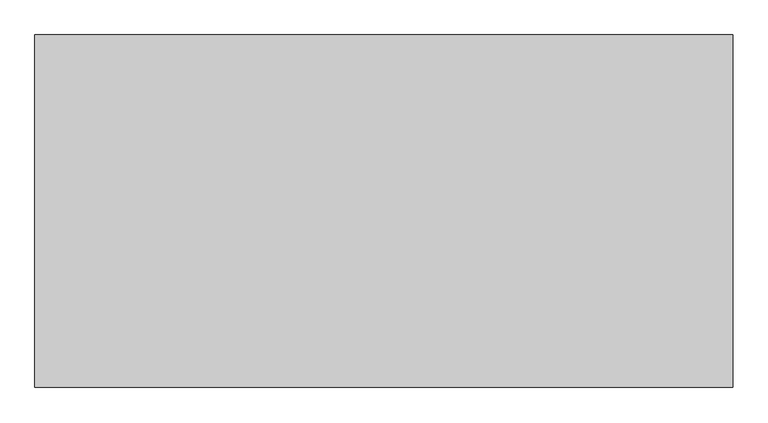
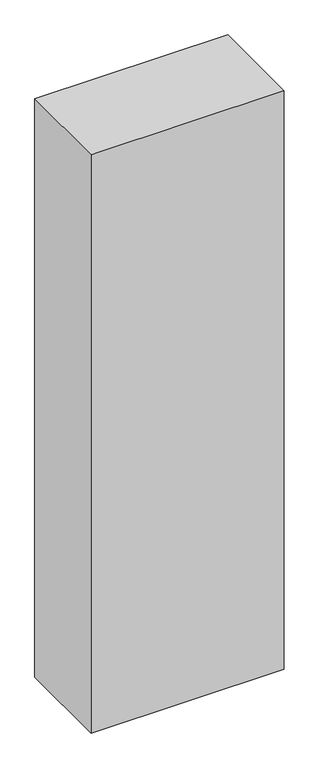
"""IFC4 building model written with IfcOpenShell, lengths in millimetres: proxy geometry."""

from ifc_helpers import new_model, si_unit, origin, origin_with_axes, place, context, project, spatial, polyline, outline, extrude, source, transform, mapped, element, save


def generic_models_80d60ba7(model_context):
    return source(origin(), model_context, "Body", "SweptSolid", [
        extrude(outline(polyline([(18062.1512068, -252.4), (17062.1512068, -252.4), (17062.1512068, 252.4), (18062.1512068, 252.4), (18062.1512068, -252.4)])), origin_with_axes(), (0.0, 0.0, 1.0), 3165.0),
    ])


if __name__ == "__main__":
    model = new_model("IFC4")
    model_context = context("Model", 3, world=origin())
    ifc_project = project(units=[si_unit("LENGTHUNIT", "METRE", prefix="MILLI")], contexts=[model_context])
    site = spatial("IfcSite", under=ifc_project)
    building = spatial("IfcBuilding", under=site)
    placement = place(None, origin())
    generic_models_shape = generic_models_80d60ba7(model_context)
    element("IfcBuildingElementProxy", 1, Name="Generic Models", at=placement, inside=building, context=model_context, shape_type="MappedRepresentation", body=[
        mapped(generic_models_shape, transform((0.0, 0.0, 0.0), x_axis=(1.0, 0.0, 0.0), y_axis=(0.0, 1.0, 0.0), z_axis=(0.0, 0.0, 1.0))),
    ])
    save(model, "model.ifc")
